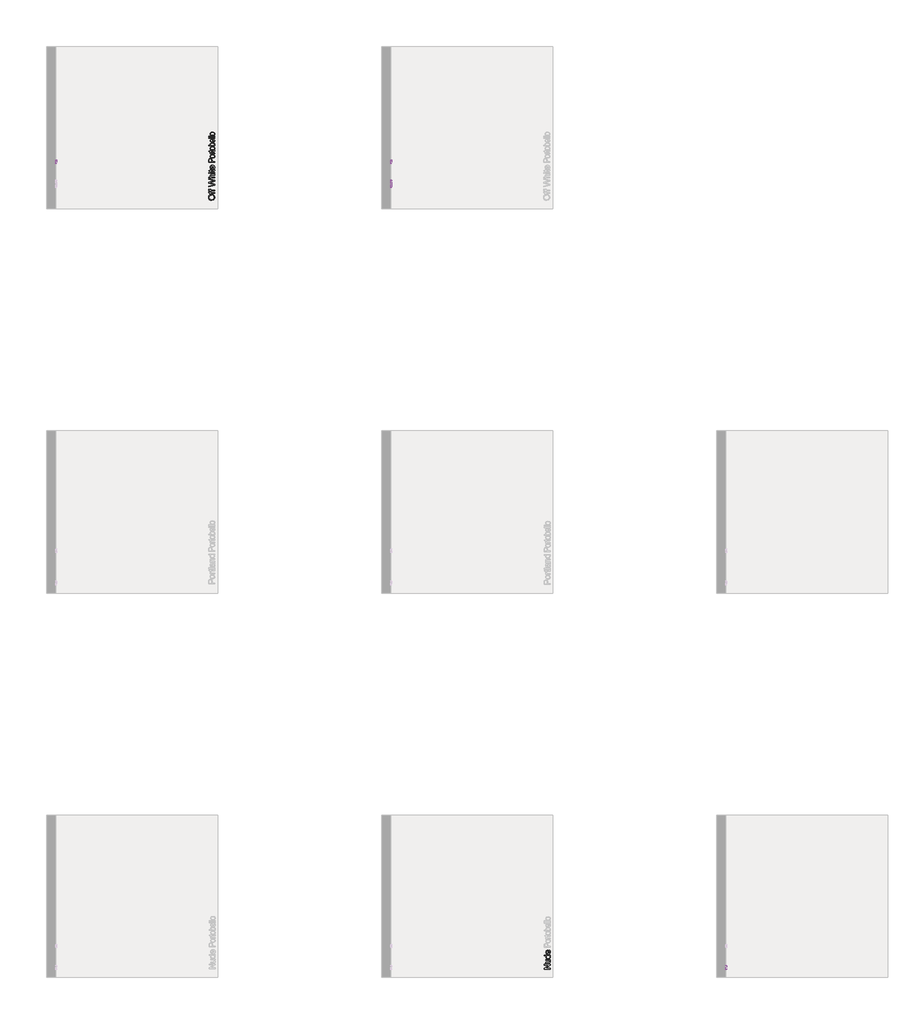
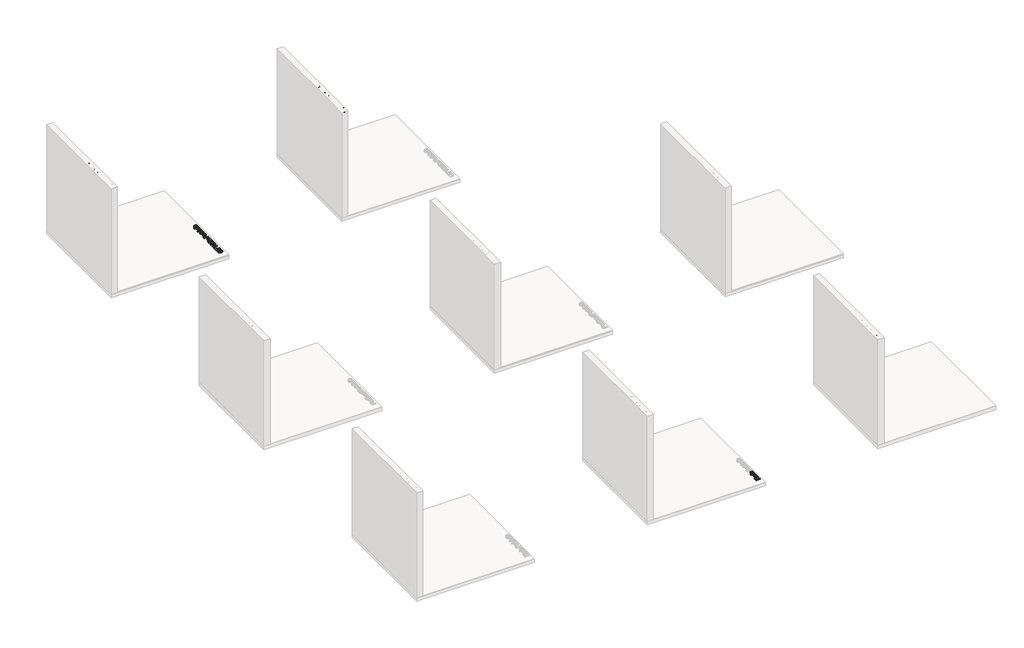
# One storey, part 10 of 14: 7 proxies.
"""IFC4 building model written with IfcOpenShell, lengths in millimetres."""

from ifc_helpers import new_model, si_unit, frame, origin, place, context, project, spatial, polyline, outline, extrude, element, save

model = new_model("IFC4")

# Units and contexts
model_context = context("Model", 3, world=origin())
ifc_project = project(units=[si_unit("LENGTHUNIT", "METRE", prefix="MILLI")], contexts=[model_context])

# Site, building, storey
site = spatial("IfcSite", under=ifc_project)
building = spatial("IfcBuilding", under=site)
storey = spatial("IfcBuildingStorey", under=building, Name="PORTOBELLO - SHOWROOM", Elevation=0.0)

# Proxies
placement = place(None, origin())
element("IfcBuildingElementProxy", 1, Name="10mm Arial", ObjectType="10mm Arial", at=placement, inside=storey, context=model_context, shape_type="SweptSolid", body=[
    extrude(outline(polyline([(192353.0453749, 3712.282743), (192252.5890648, 3712.282743), (192252.5890648, 3725.7226986), (192332.1742031, 3778.2071965), (192252.5890648, 3778.2071965), (192252.5890648, 3790.7642353), (192353.0453749, 3790.7642353), (192353.0453749, 3777.3242797), (192273.4357112, 3724.8397818), (192353.0453749, 3724.8397818), (192353.0453749, 3712.282743)])), frame((0.0, 0.0, 17.0), z_axis=(0.0, 0.0, 1.0), x_axis=(1.0, 0.0, 0.0)), (0.0, 0.0, 1.0), 20.0),
    extrude(outline(polyline([(192353.0453749, 3858.2583187), (192340.3657088, 3858.2583187), (192351.0526808, 3848.4236067), (192354.6150048, 3835.5967878), (192352.1134072, 3823.7877757), (192345.8348878, 3815.6453209), (192336.588787, 3811.9051873), (192324.914665, 3811.1694233), (192279.2727721, 3811.1694233), (192279.2727721, 3823.7264621), (192319.0040276, 3823.7264621), (192331.8063211, 3824.4867515), (192339.3233765, 3829.4531585), (192342.057966, 3838.8096239), (192339.2620628, 3849.2942607), (192331.6469055, 3856.222705), (192317.655127, 3858.2583187), (192279.2727721, 3858.2583187), (192279.2727721, 3870.8153575), (192353.0453749, 3870.8153575), (192353.0453749, 3858.2583187)])), frame((0.0, 0.0, 17.0), z_axis=(0.0, 0.0, 1.0), x_axis=(1.0, 0.0, 0.0)), (0.0, 0.0, 1.0), 20.0),
    extrude(outline(polyline([(192353.0453749, 3933.6005513), (192341.1995747, 3933.6005513), (192351.2611472, 3925.2925496), (192354.6150048, 3913.8085), (192349.7589624, 3898.2593543), (192336.2086423, 3887.2719454), (192316.2326499, 3883.3723962), (192296.2443949, 3886.965377), (192282.4856082, 3897.7320568), (192277.7031423, 3913.759449), (192281.1244449, 3925.3354691), (192290.0149264, 3933.6005513), (192252.5890648, 3933.6005513), (192252.5890648, 3946.1575901), (192353.0453749, 3946.1575901), (192353.0453749, 3933.6005513)]), holes=[polyline([(192316.183599, 3895.929435), (192327.5419556, 3897.3457807), (192335.6200311, 3901.5948177), (192340.4484823, 3907.7691039), (192342.057966, 3914.9611969), (192340.5220587, 3922.1502242), (192335.9143367, 3928.1681605), (192328.1489609, 3932.2424536), (192317.1400922, 3933.6005513), (192305.1042196, 3932.2179281), (192296.7594296, 3928.0700586), (192291.8849932, 3921.8988382), (192290.2601811, 3914.4461621), (192291.8206139, 3907.1804927), (192296.5019123, 3901.2269357), (192304.5431995, 3897.2538102), (192316.183599, 3895.929435)])]), frame((0.0, 0.0, 17.0), z_axis=(0.0, 0.0, 1.0), x_axis=(1.0, 0.0, 0.0)), (0.0, 0.0, 1.0), 20.0),
    extrude(outline(polyline([(192331.0705571, 4016.6437803), (192332.6401869, 4028.9555644), (192341.9169446, 4024.5195207), (192348.8515202, 4017.440858), (192353.1741336, 4007.8789918), (192354.6150048, 3995.9933377), (192352.1287356, 3981.2596638), (192344.6699282, 3969.922767), (192332.7229604, 3962.6938858), (192316.7722102, 3960.2842587), (192300.2849654, 3962.7184112), (192287.9547872, 3970.0208688), (192280.2660535, 3981.2044815), (192277.7031423, 3995.2820992), (192280.2599222, 4008.9213241), (192287.9302618, 4019.8198282), (192300.2359145, 4026.965936), (192316.6986338, 4029.3479719), (192320.0831481, 4029.2743955), (192320.0831481, 3972.8412975), (192329.4825331, 3975.0148669), (192336.3925833, 3980.0640473), (192340.6416203, 3987.3511765), (192342.057966, 3996.2385923), (192339.4337411, 4008.5503765), (192331.0705571, 4016.6437803)]), holes=[polyline([(192307.5261094, 3972.8412975), (192307.5261094, 4016.7909331), (192296.146293, 4011.7632125), (192291.731709, 4004.4423608), (192290.2601811, 3995.2330482), (192294.9568079, 3979.7697417), (192300.4474467, 3974.9045023), (192307.5261094, 3972.8412975)])]), frame((0.0, 0.0, 17.0), z_axis=(0.0, 0.0, 1.0), x_axis=(1.0, 0.0, 0.0)), (0.0, 0.0, 1.0), 20.0),
])
element("IfcBuildingElementProxy", 2, Name="10mm Arial", ObjectType="10mm Arial", at=placement, inside=storey, context=model_context, shape_type="SweptSolid", body=[
    extrude(outline(polyline([(186713.9139974, 16513.6004485), (186691.7000563, 16516.9481746), (186674.8939805, 16526.9913531), (186664.3173731, 16542.3259009), (186660.7918373, 16561.5477352), (186662.4473063, 16574.724042), (186667.4137133, 16586.5391854), (186675.3415702, 16596.3493719), (186685.8813894, 16603.5108081), (186698.5242673, 16607.8886038), (186712.7613005, 16609.3478691), (186727.1884061, 16607.8119617), (186740.0090936, 16603.2042398), (186750.5673069, 16595.7791548), (186758.2069897, 16585.7911586), (186762.8423028, 16574.0771828), (186764.3874072, 16561.4741588), (186762.6798216, 16548.0955169), (186757.5570648, 16536.2129284), (186749.482055, 16526.4272674), (186738.9177104, 16519.3394076), (186713.9139974, 16513.6004485)]), holes=[polyline([(186714.0366248, 16526.1574872), (186729.7513173, 16528.6682818), (186741.7258763, 16536.2006657), (186749.3042454, 16547.5222341), (186751.8303684, 16561.4005824), (186749.2797199, 16575.4812657), (186741.6277744, 16586.8212282), (186729.2853335, 16594.2984298), (186712.6631987, 16596.7908303), (186691.9391796, 16592.5233992), (186678.2171812, 16580.0521995), (186673.3488761, 16561.6213116), (186675.6941238, 16548.113911), (186682.729867, 16536.6298614), (186695.2470519, 16528.7755808), (186714.0366248, 16526.1574872)])]), frame((0.0, 0.0, 17.0), z_axis=(0.0, 0.0, 1.0), x_axis=(1.0, 0.0, 0.0)), (0.0, 0.0, 1.0), 20.0),
    extrude(outline(polyline([(186762.8177773, 16668.9938032), (186701.6022133, 16668.9938032), (186701.6022133, 16658.0063943), (186689.0451746, 16658.0063943), (186689.0451746, 16668.9938032), (186681.6139583, 16668.9938032), (186671.1415841, 16670.3181784), (186663.6613169, 16676.7438506), (186660.7918373, 16689.3989912), (186662.1652635, 16700.852384), (186673.9374873, 16699.012974), (186673.3488761, 16691.7779615), (186675.4335407, 16683.8684986), (186683.2081136, 16681.550842), (186689.0451746, 16681.550842), (186689.0451746, 16695.6775106), (186701.6022133, 16695.6775106), (186701.6022133, 16681.550842), (186762.8177773, 16681.550842), (186762.8177773, 16668.9938032)])), frame((0.0, 0.0, 17.0), z_axis=(0.0, 0.0, 1.0), x_axis=(1.0, 0.0, 0.0)), (0.0, 0.0, 1.0), 20.0),
    extrude(outline(polyline([(186762.8177773, 16628.1834272), (186701.6022133, 16628.1834272), (186701.6022133, 16617.1960183), (186689.0451746, 16617.1960183), (186689.0451746, 16628.1834272), (186681.6139583, 16628.1834272), (186671.1415841, 16629.5078024), (186663.6613169, 16635.9334746), (186660.7918373, 16648.5886152), (186662.1652635, 16660.042008), (186673.9374873, 16658.202598), (186673.3488761, 16650.9675855), (186675.4335407, 16643.0581226), (186683.2081136, 16640.740466), (186689.0451746, 16640.740466), (186689.0451746, 16654.8671346), (186701.6022133, 16654.8671346), (186701.6022133, 16640.740466), (186762.8177773, 16640.740466), (186762.8177773, 16628.1834272)])), frame((0.0, 0.0, 17.0), z_axis=(0.0, 0.0, 1.0), x_axis=(1.0, 0.0, 0.0)), (0.0, 0.0, 1.0), 20.0),
    extrude(outline(polyline([(186762.8177773, 16765.4524624), (186662.3614672, 16738.0575165), (186662.3614672, 16751.0069627), (186728.3840226, 16766.8994649), (186748.7646851, 16771.8045581), (186730.7384674, 16777.0530079), (186662.3614672, 16796.9676866), (186662.3614672, 16815.6315665), (186711.9274347, 16830.1015916), (186748.7646851, 16840.8682714), (186728.9726338, 16845.6262118), (186662.3614672, 16861.6658668), (186662.3614672, 16874.6153131), (186762.8177773, 16847.1958417), (186762.8177773, 16833.7804116), (186685.3173037, 16809.6964036), (186674.501573, 16806.3364148), (186687.5245957, 16802.5594929), (186762.8177773, 16780.6092006), (186762.8177773, 16765.4524624)])), frame((0.0, 0.0, 17.0), z_axis=(0.0, 0.0, 1.0), x_axis=(1.0, 0.0, 0.0)), (0.0, 0.0, 1.0), 20.0),
    extrude(outline(polyline([(186762.8177773, 16885.602722), (186662.3614672, 16885.602722), (186662.3614672, 16898.1597608), (186699.2968195, 16898.1597608), (186690.4308634, 16907.9515532), (186687.4755447, 16920.0119513), (186690.7006435, 16934.1140944), (186699.6156506, 16942.6734822), (186716.1212894, 16945.2486561), (186762.8177773, 16945.2486561), (186762.8177773, 16932.6916174), (186717.4211391, 16932.6916174), (186704.1773873, 16928.6939664), (186700.0325835, 16917.3632009), (186702.8284867, 16907.0747678), (186710.4068558, 16900.2076372), (186723.6260821, 16898.1597608), (186762.8177773, 16898.1597608), (186762.8177773, 16885.602722)])), frame((0.0, 0.0, 17.0), z_axis=(0.0, 0.0, 1.0), x_axis=(1.0, 0.0, 0.0)), (0.0, 0.0, 1.0), 20.0),
    extrude(outline(polyline([(186674.918506, 16962.5145844), (186662.3614672, 16962.5145844), (186662.3614672, 16975.0716232), (186674.918506, 16975.0716232), (186674.918506, 16962.5145844)])), frame((0.0, 0.0, 17.0), z_axis=(0.0, 0.0, 1.0), x_axis=(1.0, 0.0, 0.0)), (0.0, 0.0, 1.0), 20.0),
    extrude(outline(polyline([(186762.8177773, 16962.5145844), (186689.0451746, 16962.5145844), (186689.0451746, 16975.0716232), (186762.8177773, 16975.0716232), (186762.8177773, 16962.5145844)])), frame((0.0, 0.0, 17.0), z_axis=(0.0, 0.0, 1.0), x_axis=(1.0, 0.0, 0.0)), (0.0, 0.0, 1.0), 20.0),
    extrude(outline(polyline([(186752.3454032, 17020.5908887), (186763.1856593, 17022.1605186), (186764.3874072, 17012.767265), (186762.3027425, 17002.2458399), (186756.8335635, 16996.9973901), (186742.5842676, 16995.4768112), (186701.6022133, 16995.4768112), (186701.6022133, 16986.0590321), (186689.0451746, 16986.0590321), (186689.0451746, 16995.4768112), (186671.1170587, 16995.4768112), (186663.7348933, 17008.03385), (186689.0451746, 17008.03385), (186689.0451746, 17020.5908887), (186701.6022133, 17020.5908887), (186701.6022133, 17008.03385), (186742.2163856, 17008.03385), (186748.6911087, 17008.6960376), (186750.9842398, 17010.8420159), (186751.8303684, 17015.1217098), (186752.3454032, 17020.5908887)])), frame((0.0, 0.0, 17.0), z_axis=(0.0, 0.0, 1.0), x_axis=(1.0, 0.0, 0.0)), (0.0, 0.0, 1.0), 20.0),
    extrude(outline(polyline([(186740.8429595, 17084.7985596), (186742.4125893, 17097.1103437), (186751.689347, 17092.6743), (186758.6239226, 17085.5956373), (186762.946536, 17076.0337711), (186764.3874072, 17064.148117), (186761.901138, 17049.4144431), (186754.4423306, 17038.0775463), (186742.4953628, 17030.848665), (186726.5446126, 17028.439038), (186710.0573679, 17030.8731905), (186697.7271897, 17038.1756481), (186690.038456, 17049.3592608), (186687.4755447, 17063.4368785), (186690.0323246, 17077.0761034), (186697.7026642, 17087.9746075), (186710.0083169, 17095.1207153), (186726.4710362, 17097.5027512), (186729.8555506, 17097.4291748), (186729.8555506, 17040.9960767), (186739.2549355, 17043.1696462), (186746.1649857, 17048.2188266), (186750.4140227, 17055.5059558), (186751.8303684, 17064.3933716), (186749.2061435, 17076.7051557), (186740.8429595, 17084.7985596)]), holes=[polyline([(186717.2985118, 17040.9960767), (186717.2985118, 17084.9457124), (186705.9186954, 17079.9179918), (186701.5041115, 17072.5971401), (186700.0325835, 17063.3878275), (186704.7292103, 17047.924521), (186710.2198491, 17043.0592816), (186717.2985118, 17040.9960767)])]), frame((0.0, 0.0, 17.0), z_axis=(0.0, 0.0, 1.0), x_axis=(1.0, 0.0, 0.0)), (0.0, 0.0, 1.0), 20.0),
])
element("IfcBuildingElementProxy", 3, Name="10mm Arial", ObjectType="10mm Arial", at=placement, inside=storey, context=model_context, shape_type="SweptSolid", body=[
    extrude(outline(polyline([(3702.0552811, 2558.2261649), (3702.0552811, 2658.6824751), (3715.4952367, 2658.6824751), (3767.9797347, 2579.0973368), (3767.9797347, 2658.6824751), (3780.5367734, 2658.6824751), (3780.5367734, 2558.2261649), (3767.0968179, 2558.2261649), (3714.6123199, 2637.8358287), (3714.6123199, 2558.2261649), (3702.0552811, 2558.2261649)])), frame((195271.7113716, 0.0, 0.0), z_axis=(1.0, 0.0, 0.0), x_axis=(0.0, 1.0, 0.0)), (0.0, 0.0, 1.0), 20.0),
    extrude(outline(polyline([(3848.0308568, 2558.2261649), (3848.0308568, 2570.905831), (3838.1961448, 2560.2188591), (3825.3693259, 2556.6565351), (3813.5603139, 2559.1581327), (3805.4178591, 2565.436652), (3801.6777254, 2574.6827529), (3800.9419614, 2586.3568748), (3800.9419614, 2631.9987677), (3813.4990002, 2631.9987677), (3813.4990002, 2592.2675122), (3814.2592897, 2579.4652188), (3819.2256966, 2571.9481634), (3828.582162, 2569.2135739), (3839.0667989, 2572.009477), (3845.9952431, 2579.6246343), (3848.0308568, 2593.6164129), (3848.0308568, 2631.9987677), (3860.5878956, 2631.9987677), (3860.5878956, 2558.2261649), (3848.0308568, 2558.2261649)])), frame((195271.7113716, 0.0, 0.0), z_axis=(1.0, 0.0, 0.0), x_axis=(0.0, 1.0, 0.0)), (0.0, 0.0, 1.0), 20.0),
    extrude(outline(polyline([(3923.3730894, 2558.2261649), (3923.3730894, 2570.0719652), (3915.0650877, 2560.0103926), (3903.5810381, 2556.6565351), (3888.0318924, 2561.5125774), (3877.0444835, 2575.0628976), (3873.1449344, 2595.0388899), (3876.7379152, 2615.027145), (3887.5045949, 2628.7859316), (3903.5319872, 2633.5683975), (3915.1080073, 2630.147095), (3923.3730894, 2621.2566134), (3923.3730894, 2658.6824751), (3935.9301282, 2658.6824751), (3935.9301282, 2558.2261649), (3923.3730894, 2558.2261649)]), holes=[polyline([(3885.7019731, 2595.0879409), (3887.1183188, 2583.7295843), (3891.3673559, 2575.6515088), (3897.541642, 2570.8230576), (3904.733735, 2569.2135739), (3911.9227623, 2570.7494812), (3917.9406986, 2575.3572032), (3922.0149917, 2583.122579), (3923.3730894, 2594.1314477), (3921.9904663, 2606.1673203), (3917.8425968, 2614.5121102), (3911.6713763, 2619.3865466), (3904.2187002, 2621.0113588), (3896.9530308, 2619.450926), (3890.9994739, 2614.7696276), (3887.0263483, 2606.7283403), (3885.7019731, 2595.0879409)])]), frame((195271.7113716, 0.0, 0.0), z_axis=(1.0, 0.0, 0.0), x_axis=(0.0, 1.0, 0.0)), (0.0, 0.0, 1.0), 20.0),
    extrude(outline(polyline([(4006.4163185, 2580.2009828), (4018.7281026, 2578.6313529), (4014.2920589, 2569.3545953), (4007.2133961, 2562.4200197), (3997.6515299, 2558.0974062), (3985.7658758, 2556.6565351), (3971.0322019, 2559.1428042), (3959.6953051, 2566.6016117), (3952.4664239, 2578.5485795), (3950.0567968, 2594.4993297), (3952.4909494, 2610.9865744), (3959.793407, 2623.3167526), (3970.9770196, 2631.0054863), (3985.0546373, 2633.5683975), (3998.6938623, 2631.0116177), (4009.5923664, 2623.3412781), (4016.7384741, 2611.0356253), (4019.1205101, 2594.5729061), (4019.0469337, 2591.1883917), (3962.6138356, 2591.1883917), (3964.787405, 2581.7890067), (3969.8365854, 2574.8789566), (3977.1237146, 2570.6299195), (3986.0111305, 2569.2135739), (3998.3229146, 2571.8377988), (4006.4163185, 2580.2009828)]), holes=[polyline([(3962.6138356, 2603.7454305), (4006.5634713, 2603.7454305), (4001.5357507, 2615.1252469), (3994.214899, 2619.5398308), (3985.0055864, 2621.0113588), (3969.5422798, 2616.314732), (3964.6770404, 2610.8240932), (3962.6138356, 2603.7454305)])]), frame((195271.7113716, 0.0, 0.0), z_axis=(1.0, 0.0, 0.0), x_axis=(0.0, 1.0, 0.0)), (0.0, 0.0, 1.0), 20.0),
])
element("IfcBuildingElementProxy", 4, Name="10mm Arial", ObjectType="10mm Arial", at=placement, inside=storey, context=model_context, shape_type="SweptSolid", body=[
    extrude(outline(polyline([(16497.3463916, 2607.1299448), (16500.6941178, 2629.343886), (16510.7372962, 2646.1499618), (16526.0718441, 2656.7265691), (16545.2936783, 2660.2521049), (16558.4699851, 2658.596636), (16570.2851285, 2653.630229), (16580.0953151, 2645.702372), (16587.2567512, 2635.1625529), (16591.634547, 2622.519675), (16593.0938122, 2608.2826417), (16591.5579049, 2593.8555362), (16586.9501829, 2581.0348486), (16579.525098, 2570.4766354), (16569.5371018, 2562.8369526), (16557.8231259, 2558.2016395), (16545.2201019, 2556.6565351), (16531.84146, 2558.3641207), (16519.9588716, 2563.4868775), (16510.1732105, 2571.5618873), (16503.0853507, 2582.1262319), (16497.3463916, 2607.1299448)]), holes=[polyline([(16509.9034304, 2607.0073175), (16512.414225, 2591.2926249), (16519.9466088, 2579.318066), (16531.2681772, 2571.7396969), (16545.1465255, 2569.2135739), (16559.2272089, 2571.7642224), (16570.5671714, 2579.4161679), (16578.0443729, 2591.7586088), (16580.5367734, 2608.3807436), (16576.2693423, 2629.1047627), (16563.7981427, 2642.8267611), (16545.3672547, 2647.6950662), (16531.8598541, 2645.3498184), (16520.3758045, 2638.3140753), (16512.5215239, 2625.7968904), (16509.9034304, 2607.0073175)])]), frame((189692.8293498, 0.0, 0.0), z_axis=(1.0, 0.0, 0.0), x_axis=(0.0, 1.0, 0.0)), (0.0, 0.0, 1.0), 20.0),
    extrude(outline(polyline([(16652.7397464, 2558.2261649), (16652.7397464, 2619.4417289), (16641.7523374, 2619.4417289), (16641.7523374, 2631.9987677), (16652.7397464, 2631.9987677), (16652.7397464, 2639.429984), (16654.0641215, 2649.9023581), (16660.4897937, 2657.3826254), (16673.1449344, 2660.2521049), (16684.5983271, 2658.8786788), (16682.7589172, 2647.106455), (16675.5239046, 2647.6950662), (16667.6144417, 2645.6104015), (16665.2967851, 2637.8358287), (16665.2967851, 2631.9987677), (16679.4234537, 2631.9987677), (16679.4234537, 2619.4417289), (16665.2967851, 2619.4417289), (16665.2967851, 2558.2261649), (16652.7397464, 2558.2261649)])), frame((189692.8293498, 0.0, 0.0), z_axis=(1.0, 0.0, 0.0), x_axis=(0.0, 1.0, 0.0)), (0.0, 0.0, 1.0), 20.0),
    extrude(outline(polyline([(16611.9293704, 2558.2261649), (16611.9293704, 2619.4417289), (16600.9419614, 2619.4417289), (16600.9419614, 2631.9987677), (16611.9293704, 2631.9987677), (16611.9293704, 2639.429984), (16613.2537456, 2649.9023581), (16619.6794177, 2657.3826254), (16632.3345584, 2660.2521049), (16643.7879511, 2658.8786788), (16641.9485412, 2647.106455), (16634.7135286, 2647.6950662), (16626.8040657, 2645.6104015), (16624.4864091, 2637.8358287), (16624.4864091, 2631.9987677), (16638.6130778, 2631.9987677), (16638.6130778, 2619.4417289), (16624.4864091, 2619.4417289), (16624.4864091, 2558.2261649), (16611.9293704, 2558.2261649)])), frame((189692.8293498, 0.0, 0.0), z_axis=(1.0, 0.0, 0.0), x_axis=(0.0, 1.0, 0.0)), (0.0, 0.0, 1.0), 20.0),
    extrude(outline(polyline([(16749.1984055, 2558.2261649), (16721.8034596, 2658.6824751), (16734.7529058, 2658.6824751), (16750.645408, 2592.6599197), (16755.5505013, 2572.2792572), (16760.7989511, 2590.3054749), (16780.7136298, 2658.6824751), (16799.3775096, 2658.6824751), (16813.8475348, 2609.1165076), (16824.6142145, 2572.2792572), (16829.372155, 2592.0713085), (16845.41181, 2658.6824751), (16858.3612562, 2658.6824751), (16830.9417848, 2558.2261649), (16817.5263547, 2558.2261649), (16793.4423468, 2635.7266386), (16790.0823579, 2646.5423692), (16786.3054361, 2633.5193466), (16764.3551437, 2558.2261649), (16749.1984055, 2558.2261649)])), frame((189692.8293498, 0.0, 0.0), z_axis=(1.0, 0.0, 0.0), x_axis=(0.0, 1.0, 0.0)), (0.0, 0.0, 1.0), 20.0),
    extrude(outline(polyline([(16869.3486651, 2558.2261649), (16869.3486651, 2658.6824751), (16881.9057039, 2658.6824751), (16881.9057039, 2621.7471228), (16891.6974963, 2630.6130789), (16903.7578944, 2633.5683975), (16917.8600376, 2630.3432987), (16926.4194253, 2621.4282917), (16928.9945993, 2604.9226529), (16928.9945993, 2558.2261649), (16916.4375605, 2558.2261649), (16916.4375605, 2603.6228031), (16912.4399095, 2616.866555), (16901.109144, 2621.0113588), (16890.8207109, 2618.2154556), (16883.9535803, 2610.6370865), (16881.9057039, 2597.4178602), (16881.9057039, 2558.2261649), (16869.3486651, 2558.2261649)])), frame((189692.8293498, 0.0, 0.0), z_axis=(1.0, 0.0, 0.0), x_axis=(0.0, 1.0, 0.0)), (0.0, 0.0, 1.0), 20.0),
    extrude(outline(polyline([(189712.8293498, 16958.8175664), (189712.8293498, 16946.2605276), (189692.8293498, 16946.2605276), (189692.8293498, 16958.8175664), (189712.8293498, 16958.8175664)])), frame((0.0, 0.0, 2646.1254363), z_axis=(0.0, 0.0, 1.0), x_axis=(1.0, 0.0, 0.0)), (0.0, 0.0, 1.0), 12.5570388),
    extrude(outline(polyline([(189712.8293498, 16958.8175664), (189712.8293498, 16946.2605276), (189692.8293498, 16946.2605276), (189692.8293498, 16958.8175664), (189712.8293498, 16958.8175664)])), frame((0.0, 0.0, 2558.2261649), z_axis=(0.0, 0.0, 1.0), x_axis=(1.0, 0.0, 0.0)), (0.0, 0.0, 1.0), 73.7726028),
    extrude(outline(polyline([(17004.3368319, 2568.6985391), (17005.9064617, 2557.8582829), (16996.5132081, 2556.6565351), (16985.9917831, 2558.7411997), (16980.7433333, 2564.2103787), (16979.2227544, 2578.4596747), (16979.2227544, 2619.4417289), (16969.8049753, 2619.4417289), (16969.8049753, 2631.9987677), (16979.2227544, 2631.9987677), (16979.2227544, 2649.9268836), (16991.7797931, 2657.309049), (16991.7797931, 2631.9987677), (17004.3368319, 2631.9987677), (17004.3368319, 2619.4417289), (16991.7797931, 2619.4417289), (16991.7797931, 2578.8275567), (16992.4419807, 2572.3528336), (16994.587959, 2570.0597024), (16998.8676529, 2569.2135739), (17004.3368319, 2568.6985391)])), frame((189692.8293498, 0.0, 0.0), z_axis=(1.0, 0.0, 0.0), x_axis=(0.0, 1.0, 0.0)), (0.0, 0.0, 1.0), 20.0),
    extrude(outline(polyline([(17068.5445028, 2580.2009828), (17080.8562869, 2578.6313529), (17076.4202432, 2569.3545953), (17069.3415804, 2562.4200197), (17059.7797142, 2558.0974062), (17047.8940601, 2556.6565351), (17033.1603862, 2559.1428042), (17021.8234894, 2566.6016117), (17014.5946082, 2578.5485795), (17012.1849811, 2594.4993297), (17014.6191337, 2610.9865744), (17021.9215913, 2623.3167526), (17033.1052039, 2631.0054863), (17047.1828216, 2633.5683975), (17060.8220466, 2631.0116177), (17071.7205507, 2623.3412781), (17078.8666584, 2611.0356253), (17081.2486943, 2594.5729061), (17081.1751179, 2591.1883917), (17024.7420199, 2591.1883917), (17026.9155893, 2581.7890067), (17031.9647697, 2574.8789566), (17039.2518989, 2570.6299195), (17048.1393148, 2569.2135739), (17060.4510989, 2571.8377988), (17068.5445028, 2580.2009828)]), holes=[polyline([(17024.7420199, 2603.7454305), (17068.6916556, 2603.7454305), (17063.663935, 2615.1252469), (17056.3430833, 2619.5398308), (17047.1337707, 2621.0113588), (17031.6704641, 2616.314732), (17026.8052247, 2610.8240932), (17024.7420199, 2603.7454305)])]), frame((189692.8293498, 0.0, 0.0), z_axis=(1.0, 0.0, 0.0), x_axis=(0.0, 1.0, 0.0)), (0.0, 0.0, 1.0), 20.0),
])
element("IfcBuildingElementProxy", 5, Name="10mm Arial Narrow", ObjectType="10mm Arial Narrow", at=placement, inside=storey, context=model_context, shape_type="SweptSolid", body=[
    extrude(outline(polyline([(186762.8177773, 17145.6232376), (186662.0991736, 17145.6232376), (186662.0991736, 17176.9201223), (186663.9774943, 17193.2158238), (186673.4579375, 17204.6888099), (186690.4770463, 17208.9784884), (186702.5528718, 17207.19218), (186712.1792656, 17201.8332548), (186718.480524, 17192.089466), (186720.5809435, 17177.1485667), (186720.5809435, 17155.3701993), (186762.8177773, 17155.3701993), (186762.8177773, 17145.6232376)]), holes=[polyline([(186709.2094882, 17155.3701993), (186709.2094882, 17178.3415542), (186704.678674, 17194.2057496), (186691.0100833, 17199.2315267), (186680.8443069, 17196.7567122), (186675.044357, 17190.7790834), (186673.4706288, 17178.1131098), (186673.4706288, 17155.3701993), (186709.2094882, 17155.3701993)])]), frame((0.0, 0.0, 17.0), z_axis=(0.0, 0.0, 1.0), x_axis=(1.0, 0.0, 0.0)), (0.0, 0.0, 1.0), 20.0),
    extrude(outline(polyline([(186726.2666711, 17217.1009564), (186709.6758956, 17219.0554253), (186697.7238108, 17224.9188319), (186690.4992562, 17233.7773986), (186688.0910713, 17244.7173478), (186690.4992562, 17255.5303834), (186697.7238108, 17264.4143328), (186709.4855252, 17270.3538875), (186725.5051898, 17272.3337391), (186742.6670763, 17270.3887888), (186754.8095315, 17264.5539377), (186762.0340861, 17255.7048895), (186764.4422709, 17244.7173478), (186762.0277404, 17233.8567196), (186754.7841488, 17224.9822887), (186742.8257183, 17219.0712895), (186726.2666711, 17217.1009564)]), holes=[polyline([(186726.2412884, 17226.8479181), (186738.7930398, 17228.1519549), (186747.6642979, 17232.0640655), (186752.9375564, 17237.9052623), (186754.6953093, 17244.9965576), (186752.9216922, 17251.7166308), (186747.6008411, 17257.4087041), (186738.7137188, 17261.2922591), (186726.2412884, 17262.5867775), (186713.7276111, 17261.2827406), (186704.8690444, 17257.37063), (186699.5957858, 17251.5294333), (186697.838033, 17244.4381379), (186699.6053043, 17237.6704722), (186704.9071184, 17231.9879174), (186713.7752037, 17228.1329179), (186726.2412884, 17226.8479181)])]), frame((0.0, 0.0, 17.0), z_axis=(0.0, 0.0, 1.0), x_axis=(1.0, 0.0, 0.0)), (0.0, 0.0, 1.0), 20.0),
    extrude(outline(polyline([(186754.6953093, 17343.8114579), (186764.4422709, 17345.4359515), (186764.4422709, 17338.0749649), (186762.3228144, 17329.8002005), (186756.5228646, 17325.4851394), (186741.8770394, 17324.3175346), (186699.4625266, 17324.3175346), (186699.4625266, 17316.1950666), (186696.2135394, 17316.1950666), (186701.0870202, 17314.570573), (186699.4625266, 17307.0065246), (186701.7850448, 17300.9273649), (186708.2703279, 17297.0565012), (186723.6776344, 17295.0766496), (186762.8177773, 17295.0766496), (186762.8177773, 17285.329688), (186689.7155649, 17285.329688), (186689.7155649, 17295.0766496), (186699.4117612, 17295.0766496), (186690.32475, 17301.320797), (186688.0910713, 17307.7172405), (186689.7155649, 17316.1950666), (186689.7155649, 17324.3175346), (186673.4706288, 17324.3175346), (186665.3481608, 17334.0644963), (186689.7155649, 17334.0644963), (186689.7155649, 17343.8114579), (186699.4625266, 17343.8114579), (186699.4625266, 17334.0644963), (186744.1107181, 17334.0644963), (186752.1062726, 17334.9275085), (186754.6953093, 17339.5471622), (186754.6953093, 17343.8114579)])), frame((0.0, 0.0, 17.0), z_axis=(0.0, 0.0, 1.0), x_axis=(1.0, 0.0, 0.0)), (0.0, 0.0, 1.0), 20.0),
    extrude(outline(polyline([(186726.2666711, 17350.3094324), (186709.6758956, 17352.2639012), (186697.7238108, 17358.1273078), (186690.4992562, 17366.9858746), (186688.0910713, 17377.9258237), (186690.4992562, 17388.7388593), (186697.7238108, 17397.6228087), (186709.4855252, 17403.5623635), (186725.5051898, 17405.5422151), (186742.6670763, 17403.5972647), (186754.8095315, 17397.7624136), (186762.0340861, 17388.9133654), (186764.4422709, 17377.9258237), (186762.0277404, 17367.0651955), (186754.7841488, 17358.1907646), (186742.8257183, 17352.2797654), (186726.2666711, 17350.3094324)]), holes=[polyline([(186726.2412884, 17360.056394), (186738.7930398, 17361.3604309), (186747.6642979, 17365.2725415), (186752.9375564, 17371.1137382), (186754.6953093, 17378.2050335), (186752.9216922, 17384.9251067), (186747.6008411, 17390.61718), (186738.7137188, 17394.5007351), (186726.2412884, 17395.7952534), (186713.7276111, 17394.4912165), (186704.8690444, 17390.579106), (186699.5957858, 17384.7379092), (186697.838033, 17377.6466139), (186699.6053043, 17370.8789481), (186704.9071184, 17365.1963933), (186713.7752037, 17361.3413938), (186726.2412884, 17360.056394)])]), frame((0.0, 0.0, 17.0), z_axis=(0.0, 0.0, 1.0), x_axis=(1.0, 0.0, 0.0)), (0.0, 0.0, 1.0), 20.0),
    extrude(outline(polyline([(186762.8177773, 17428.2851256), (186762.8177773, 17418.5381639), (186662.0991736, 17418.5381639), (186662.0991736, 17428.2851256), (186697.5080577, 17428.2851256), (186690.4262809, 17435.6841863), (186688.0910713, 17444.8854196), (186692.2919103, 17457.7671463), (186705.0213407, 17467.0445278), (186725.7082515, 17470.5219594), (186742.1625949, 17468.5897004), (186754.365334, 17462.7929234), (186761.9230367, 17454.4198011), (186764.4422709, 17444.7585061), (186761.8278515, 17435.4176678), (186754.0607415, 17428.2851256), (186762.8177773, 17428.2851256)]), holes=[polyline([(186725.7082515, 17428.2851256), (186742.9558047, 17430.366508), (186751.6874578, 17436.2552973), (186754.6953093, 17444.7077407), (186752.905828, 17450.6504683), (186747.5373843, 17455.8888256), (186726.1143749, 17460.7749978), (186704.678674, 17456.0665046), (186699.5481932, 17450.8218016), (186697.838033, 17444.504679), (186699.6275142, 17438.5270501), (186704.9959579, 17433.2347545), (186725.7082515, 17428.2851256)])]), frame((0.0, 0.0, 17.0), z_axis=(0.0, 0.0, 1.0), x_axis=(1.0, 0.0, 0.0)), (0.0, 0.0, 1.0), 20.0),
    extrude(outline(polyline([(186740.0748668, 17522.5057549), (186741.6993604, 17532.2527166), (186751.585927, 17528.5531862), (186758.7057779, 17522.7341993), (186763.0081477, 17515.030546), (186764.4422709, 17505.6770164), (186762.0277404, 17494.0834624), (186754.7841488, 17484.9393402), (186742.9780146, 17478.9997854), (186726.8758562, 17477.0199338), (186710.2089325, 17479.009304), (186698.0284033, 17484.9774143), (186690.5754043, 17493.9914501), (186688.0910713, 17505.1185967), (186690.4897377, 17515.8015459), (186697.6857367, 17524.5490633), (186709.4252413, 17530.3839143), (186725.4544243, 17532.3288647), (186728.7034115, 17532.2527166), (186728.7034115, 17486.7668955), (186748.1465694, 17492.769907), (186753.0581243, 17498.6999433), (186754.6953093, 17505.80393), (186751.0401987, 17515.9823977), (186740.0748668, 17522.5057549)]), holes=[polyline([(186718.9564499, 17487.426846), (186718.9564499, 17522.5057549), (186704.6913654, 17518.2414592), (186699.5513661, 17512.4161266), (186697.838033, 17505.1947449), (186703.5491433, 17492.9856601), (186718.9564499, 17487.426846)])]), frame((0.0, 0.0, 17.0), z_axis=(0.0, 0.0, 1.0), x_axis=(1.0, 0.0, 0.0)), (0.0, 0.0, 1.0), 20.0),
    extrude(outline(polyline([(186762.8177773, 17545.2486654), (186662.0991736, 17545.2486654), (186662.0991736, 17554.9956271), (186762.8177773, 17554.9956271), (186762.8177773, 17545.2486654)])), frame((0.0, 0.0, 17.0), z_axis=(0.0, 0.0, 1.0), x_axis=(1.0, 0.0, 0.0)), (0.0, 0.0, 1.0), 20.0),
    extrude(outline(polyline([(186762.8177773, 17571.2405632), (186662.0991736, 17571.2405632), (186662.0991736, 17580.9875248), (186762.8177773, 17580.9875248), (186762.8177773, 17571.2405632)])), frame((0.0, 0.0, 17.0), z_axis=(0.0, 0.0, 1.0), x_axis=(1.0, 0.0, 0.0)), (0.0, 0.0, 1.0), 20.0),
    extrude(outline(polyline([(186726.2666711, 17592.3589801), (186709.6758956, 17594.313449), (186697.7238108, 17600.1768556), (186690.4992562, 17609.0354223), (186688.0910713, 17619.9753714), (186690.4992562, 17630.788407), (186697.7238108, 17639.6723564), (186709.4855252, 17645.6119112), (186725.5051898, 17647.5917628), (186742.6670763, 17645.6468124), (186754.8095315, 17639.8119614), (186762.0340861, 17630.9629132), (186764.4422709, 17619.9753714), (186762.0277404, 17609.1147433), (186754.7841488, 17600.2403124), (186742.8257183, 17594.3293131), (186726.2666711, 17592.3589801)]), holes=[polyline([(186726.2412884, 17602.1059417), (186738.7930398, 17603.4099786), (186747.6642979, 17607.3220892), (186752.9375564, 17613.1632859), (186754.6953093, 17620.2545813), (186752.9216922, 17626.9746544), (186747.6008411, 17632.6667278), (186738.7137188, 17636.5502828), (186726.2412884, 17637.8448011), (186713.7276111, 17636.5407643), (186704.8690444, 17632.6286537), (186699.5957858, 17626.7874569), (186697.838033, 17619.6961616), (186699.6053043, 17612.9284958), (186704.9071184, 17607.245941), (186713.7752037, 17603.3909416), (186726.2412884, 17602.1059417)])]), frame((0.0, 0.0, 17.0), z_axis=(0.0, 0.0, 1.0), x_axis=(1.0, 0.0, 0.0)), (0.0, 0.0, 1.0), 20.0),
])
element("IfcBuildingElementProxy", 6, Name="10mm Arial Narrow", ObjectType="10mm Arial Narrow", at=placement, inside=storey, context=model_context, shape_type="SweptSolid", body=[
    extrude(outline(polyline([(17124.1903403, 2558.2261649), (17124.1903403, 2658.9447687), (17155.4872249, 2658.9447687), (17171.7829265, 2657.066448), (17183.2559126, 2647.5860048), (17187.545591, 2630.566896), (17185.7592826, 2618.4910704), (17180.4003574, 2608.8646767), (17170.6565686, 2602.5634182), (17155.7156694, 2600.4629988), (17133.9373019, 2600.4629988), (17133.9373019, 2558.2261649), (17124.1903403, 2558.2261649)]), holes=[polyline([(17133.9373019, 2611.834454), (17156.9086569, 2611.834454), (17172.7728523, 2616.3652682), (17177.7986294, 2630.033859), (17175.3238149, 2640.1996354), (17169.346186, 2645.9995852), (17156.6802124, 2647.5733134), (17133.9373019, 2647.5733134), (17133.9373019, 2611.834454)])]), frame((189692.8293498, 0.0, 0.0), z_axis=(1.0, 0.0, 0.0), x_axis=(0.0, 1.0, 0.0)), (0.0, 0.0, 1.0), 20.0),
    extrude(outline(polyline([(17195.6680591, 2594.7772711), (17197.6225279, 2611.3680467), (17203.4859345, 2623.3201315), (17212.3445013, 2630.5446861), (17223.2844504, 2632.9528709), (17234.097486, 2630.5446861), (17242.9814354, 2623.3201315), (17248.9209902, 2611.558417), (17250.9008418, 2595.5387525), (17248.9558914, 2578.3768659), (17243.1210403, 2566.2344108), (17234.2719921, 2559.0098562), (17223.2844504, 2556.6016713), (17212.4238222, 2559.0162019), (17203.5493913, 2566.2597935), (17197.6383921, 2578.218224), (17195.6680591, 2594.7772711)]), holes=[polyline([(17205.4150207, 2594.8026538), (17206.7190576, 2582.2509024), (17210.6311682, 2573.3796444), (17216.4723649, 2568.1063858), (17223.5636602, 2566.348633), (17230.2837334, 2568.12225), (17235.9758067, 2573.4431012), (17239.8593618, 2582.3302234), (17241.1538801, 2594.8026538), (17239.8498432, 2607.3163312), (17235.9377327, 2616.1748979), (17230.0965359, 2621.4481564), (17223.0052406, 2623.2059093), (17216.2375748, 2621.4386379), (17210.55502, 2616.1368238), (17206.7000205, 2607.2687386), (17205.4150207, 2594.8026538)])]), frame((189692.8293498, 0.0, 0.0), z_axis=(1.0, 0.0, 0.0), x_axis=(0.0, 1.0, 0.0)), (0.0, 0.0, 1.0), 20.0),
    extrude(outline(polyline([(17322.3785606, 2566.348633), (17324.0030542, 2556.6016713), (17316.6420675, 2556.6016713), (17308.3673032, 2558.7211278), (17304.052242, 2564.5210777), (17302.8846372, 2579.1669029), (17302.8846372, 2621.5814157), (17294.7621692, 2621.5814157), (17294.7621692, 2624.8304029), (17293.1376756, 2619.9569221), (17285.5736272, 2621.5814157), (17279.4944675, 2619.2588975), (17275.6236039, 2612.7736144), (17273.6437523, 2597.3663078), (17273.6437523, 2558.2261649), (17263.8967906, 2558.2261649), (17263.8967906, 2631.3283773), (17273.6437523, 2631.3283773), (17273.6437523, 2621.6321811), (17279.8878996, 2630.7191922), (17286.2843432, 2632.9528709), (17294.7621692, 2631.3283773), (17302.8846372, 2631.3283773), (17302.8846372, 2647.5733134), (17312.6315989, 2655.6957815), (17312.6315989, 2631.3283773), (17322.3785606, 2631.3283773), (17322.3785606, 2621.5814157), (17312.6315989, 2621.5814157), (17312.6315989, 2576.9332242), (17313.4946111, 2568.9376697), (17318.1142648, 2566.348633), (17322.3785606, 2566.348633)])), frame((189692.8293498, 0.0, 0.0), z_axis=(1.0, 0.0, 0.0), x_axis=(0.0, 1.0, 0.0)), (0.0, 0.0, 1.0), 20.0),
    extrude(outline(polyline([(17328.876535, 2594.7772711), (17330.8310039, 2611.3680467), (17336.6944105, 2623.3201315), (17345.5529772, 2630.5446861), (17356.4929263, 2632.9528709), (17367.3059619, 2630.5446861), (17376.1899113, 2623.3201315), (17382.1294661, 2611.558417), (17384.1093177, 2595.5387525), (17382.1643673, 2578.3768659), (17376.3295163, 2566.2344108), (17367.4804681, 2559.0098562), (17356.4929263, 2556.6016713), (17345.6322982, 2559.0162019), (17336.7578673, 2566.2597935), (17330.8468681, 2578.218224), (17328.876535, 2594.7772711)]), holes=[polyline([(17338.6234966, 2594.8026538), (17339.9275335, 2582.2509024), (17343.8396441, 2573.3796444), (17349.6808408, 2568.1063858), (17356.7721362, 2566.348633), (17363.4922093, 2568.12225), (17369.1842827, 2573.4431012), (17373.0678377, 2582.3302234), (17374.362356, 2594.8026538), (17373.0583192, 2607.3163312), (17369.1462086, 2616.1748979), (17363.3050118, 2621.4481564), (17356.2137165, 2623.2059093), (17349.4460507, 2621.4386379), (17343.7634959, 2616.1368238), (17339.9084965, 2607.2687386), (17338.6234966, 2594.8026538)])]), frame((189692.8293498, 0.0, 0.0), z_axis=(1.0, 0.0, 0.0), x_axis=(0.0, 1.0, 0.0)), (0.0, 0.0, 1.0), 20.0),
    extrude(outline(polyline([(17406.8522282, 2558.2261649), (17397.1052666, 2558.2261649), (17397.1052666, 2658.9447687), (17406.8522282, 2658.9447687), (17406.8522282, 2623.5358846), (17414.2512889, 2630.6176614), (17423.4525223, 2632.9528709), (17436.3342489, 2628.752032), (17445.6116304, 2616.0226016), (17449.089062, 2595.3356908), (17447.156803, 2578.8813473), (17441.360026, 2566.6786082), (17432.9869037, 2559.1209056), (17423.3256087, 2556.6016713), (17413.9847705, 2559.2160907), (17406.8522282, 2566.9832008), (17406.8522282, 2558.2261649)]), holes=[polyline([(17406.8522282, 2595.3356908), (17408.9336107, 2578.0881376), (17414.8224, 2569.3564844), (17423.2748433, 2566.348633), (17429.2175709, 2568.1381142), (17434.4559282, 2573.5065579), (17439.3421004, 2594.9295674), (17434.6336072, 2616.3652682), (17429.3889042, 2621.495749), (17423.0717816, 2623.2059093), (17417.0941528, 2621.4164281), (17411.8018572, 2616.0479843), (17406.8522282, 2595.3356908)])]), frame((189692.8293498, 0.0, 0.0), z_axis=(1.0, 0.0, 0.0), x_axis=(0.0, 1.0, 0.0)), (0.0, 0.0, 1.0), 20.0),
    extrude(outline(polyline([(17501.0728575, 2580.9690755), (17510.8198192, 2579.3445819), (17507.1202888, 2569.4580153), (17501.3013019, 2562.3381644), (17493.5976487, 2558.0357946), (17484.2441191, 2556.6016713), (17472.6505651, 2559.0162019), (17463.5064428, 2566.2597935), (17457.5668881, 2578.0659277), (17455.5870365, 2594.168086), (17457.5764066, 2610.8350097), (17463.5445169, 2623.0155389), (17472.5585527, 2630.4685379), (17483.6856994, 2632.9528709), (17494.3686486, 2630.5542046), (17503.1161659, 2623.3582056), (17508.951017, 2611.618701), (17510.8959673, 2595.5895179), (17510.8198192, 2592.3405307), (17465.3339981, 2592.3405307), (17471.3370097, 2572.8973728), (17477.2670459, 2567.9858179), (17484.3710326, 2566.348633), (17494.5495004, 2570.0037436), (17501.0728575, 2580.9690755)]), holes=[polyline([(17465.9939487, 2602.0874924), (17501.0728575, 2602.0874924), (17496.8085618, 2616.3525769), (17490.9832293, 2621.4925762), (17483.7618475, 2623.2059093), (17471.5527627, 2617.4947989), (17465.9939487, 2602.0874924)])]), frame((189692.8293498, 0.0, 0.0), z_axis=(1.0, 0.0, 0.0), x_axis=(0.0, 1.0, 0.0)), (0.0, 0.0, 1.0), 20.0),
    extrude(outline(polyline([(189712.8293498, 17533.5627297), (189712.8293498, 17523.8157681), (189692.8293498, 17523.8157681), (189692.8293498, 17533.5627297), (189712.8293498, 17533.5627297)])), frame((0.0, 0.0, 2558.2261649), z_axis=(0.0, 0.0, 1.0), x_axis=(1.0, 0.0, 0.0)), (0.0, 0.0, 1.0), 100.7186038),
    extrude(outline(polyline([(189712.8293498, 17559.5546275), (189712.8293498, 17549.8076658), (189692.8293498, 17549.8076658), (189692.8293498, 17559.5546275), (189712.8293498, 17559.5546275)])), frame((0.0, 0.0, 2558.2261649), z_axis=(0.0, 0.0, 1.0), x_axis=(1.0, 0.0, 0.0)), (0.0, 0.0, 1.0), 100.7186038),
    extrude(outline(polyline([(17570.9260827, 2594.7772711), (17572.8805516, 2611.3680467), (17578.7439582, 2623.3201315), (17587.6025249, 2630.5446861), (17598.5424741, 2632.9528709), (17609.3555097, 2630.5446861), (17618.2394591, 2623.3201315), (17624.1790138, 2611.558417), (17626.1588654, 2595.5387525), (17624.2139151, 2578.3768659), (17618.379064, 2566.2344108), (17609.5300158, 2559.0098562), (17598.5424741, 2556.6016713), (17587.6818459, 2559.0162019), (17578.807415, 2566.2597935), (17572.8964158, 2578.218224), (17570.9260827, 2594.7772711)]), holes=[polyline([(17580.6730444, 2594.8026538), (17581.9770812, 2582.2509024), (17585.8891918, 2573.3796444), (17591.7303886, 2568.1063858), (17598.8216839, 2566.348633), (17605.5417571, 2568.12225), (17611.2338304, 2573.4431012), (17615.1173854, 2582.3302234), (17616.4119038, 2594.8026538), (17615.1078669, 2607.3163312), (17611.1957563, 2616.1748979), (17605.3545596, 2621.4481564), (17598.2632642, 2623.2059093), (17591.4955985, 2621.4386379), (17585.8130437, 2616.1368238), (17581.9580442, 2607.2687386), (17580.6730444, 2594.8026538)])]), frame((189692.8293498, 0.0, 0.0), z_axis=(1.0, 0.0, 0.0), x_axis=(0.0, 1.0, 0.0)), (0.0, 0.0, 1.0), 20.0),
])
element("IfcBuildingElementProxy", 7, Name="10mm Arial Narrow", ObjectType="10mm Arial Narrow", at=placement, inside=storey, context=model_context, shape_type="SweptSolid", body=[
    extrude(outline(polyline([(17124.1903403, 2558.2261649), (17124.1903403, 2658.9447687), (17155.4872249, 2658.9447687), (17171.7829265, 2657.066448), (17183.2559126, 2647.5860048), (17187.545591, 2630.566896), (17185.7592826, 2618.4910704), (17180.4003574, 2608.8646767), (17170.6565686, 2602.5634182), (17155.7156694, 2600.4629988), (17133.9373019, 2600.4629988), (17133.9373019, 2558.2261649), (17124.1903403, 2558.2261649)]), holes=[polyline([(17133.9373019, 2611.834454), (17156.9086569, 2611.834454), (17172.7728523, 2616.3652682), (17177.7986294, 2630.033859), (17175.3238149, 2640.1996354), (17169.346186, 2645.9995852), (17156.6802124, 2647.5733134), (17133.9373019, 2647.5733134), (17133.9373019, 2611.834454)])]), frame((184113.9473279, 0.0, 0.0), z_axis=(1.0, 0.0, 0.0), x_axis=(0.0, 1.0, 0.0)), (0.0, 0.0, 1.0), 20.0),
    extrude(outline(polyline([(17195.6680591, 2594.7772711), (17197.6225279, 2611.3680467), (17203.4859345, 2623.3201315), (17212.3445013, 2630.5446861), (17223.2844504, 2632.9528709), (17234.097486, 2630.5446861), (17242.9814354, 2623.3201315), (17248.9209902, 2611.558417), (17250.9008418, 2595.5387525), (17248.9558914, 2578.3768659), (17243.1210403, 2566.2344108), (17234.2719921, 2559.0098562), (17223.2844504, 2556.6016713), (17212.4238222, 2559.0162019), (17203.5493913, 2566.2597935), (17197.6383921, 2578.218224), (17195.6680591, 2594.7772711)]), holes=[polyline([(17205.4150207, 2594.8026538), (17206.7190576, 2582.2509024), (17210.6311682, 2573.3796444), (17216.4723649, 2568.1063858), (17223.5636602, 2566.348633), (17230.2837334, 2568.12225), (17235.9758067, 2573.4431012), (17239.8593618, 2582.3302234), (17241.1538801, 2594.8026538), (17239.8498432, 2607.3163312), (17235.9377327, 2616.1748979), (17230.0965359, 2621.4481564), (17223.0052406, 2623.2059093), (17216.2375748, 2621.4386379), (17210.55502, 2616.1368238), (17206.7000205, 2607.2687386), (17205.4150207, 2594.8026538)])]), frame((184113.9473279, 0.0, 0.0), z_axis=(1.0, 0.0, 0.0), x_axis=(0.0, 1.0, 0.0)), (0.0, 0.0, 1.0), 20.0),
    extrude(outline(polyline([(17322.3785606, 2566.348633), (17324.0030542, 2556.6016713), (17316.6420675, 2556.6016713), (17308.3673032, 2558.7211278), (17304.052242, 2564.5210777), (17302.8846372, 2579.1669029), (17302.8846372, 2621.5814157), (17294.7621692, 2621.5814157), (17294.7621692, 2624.8304029), (17293.1376756, 2619.9569221), (17285.5736272, 2621.5814157), (17279.4944675, 2619.2588975), (17275.6236039, 2612.7736144), (17273.6437523, 2597.3663078), (17273.6437523, 2558.2261649), (17263.8967906, 2558.2261649), (17263.8967906, 2631.3283773), (17273.6437523, 2631.3283773), (17273.6437523, 2621.6321811), (17279.8878996, 2630.7191922), (17286.2843432, 2632.9528709), (17294.7621692, 2631.3283773), (17302.8846372, 2631.3283773), (17302.8846372, 2647.5733134), (17312.6315989, 2655.6957815), (17312.6315989, 2631.3283773), (17322.3785606, 2631.3283773), (17322.3785606, 2621.5814157), (17312.6315989, 2621.5814157), (17312.6315989, 2576.9332242), (17313.4946111, 2568.9376697), (17318.1142648, 2566.348633), (17322.3785606, 2566.348633)])), frame((184113.9473279, 0.0, 0.0), z_axis=(1.0, 0.0, 0.0), x_axis=(0.0, 1.0, 0.0)), (0.0, 0.0, 1.0), 20.0),
    extrude(outline(polyline([(17328.876535, 2594.7772711), (17330.8310039, 2611.3680467), (17336.6944105, 2623.3201315), (17345.5529772, 2630.5446861), (17356.4929263, 2632.9528709), (17367.3059619, 2630.5446861), (17376.1899113, 2623.3201315), (17382.1294661, 2611.558417), (17384.1093177, 2595.5387525), (17382.1643673, 2578.3768659), (17376.3295163, 2566.2344108), (17367.4804681, 2559.0098562), (17356.4929263, 2556.6016713), (17345.6322982, 2559.0162019), (17336.7578673, 2566.2597935), (17330.8468681, 2578.218224), (17328.876535, 2594.7772711)]), holes=[polyline([(17338.6234966, 2594.8026538), (17339.9275335, 2582.2509024), (17343.8396441, 2573.3796444), (17349.6808408, 2568.1063858), (17356.7721362, 2566.348633), (17363.4922093, 2568.12225), (17369.1842827, 2573.4431012), (17373.0678377, 2582.3302234), (17374.362356, 2594.8026538), (17373.0583192, 2607.3163312), (17369.1462086, 2616.1748979), (17363.3050118, 2621.4481564), (17356.2137165, 2623.2059093), (17349.4460507, 2621.4386379), (17343.7634959, 2616.1368238), (17339.9084965, 2607.2687386), (17338.6234966, 2594.8026538)])]), frame((184113.9473279, 0.0, 0.0), z_axis=(1.0, 0.0, 0.0), x_axis=(0.0, 1.0, 0.0)), (0.0, 0.0, 1.0), 20.0),
    extrude(outline(polyline([(17406.8522282, 2558.2261649), (17397.1052666, 2558.2261649), (17397.1052666, 2658.9447687), (17406.8522282, 2658.9447687), (17406.8522282, 2623.5358846), (17414.2512889, 2630.6176614), (17423.4525223, 2632.9528709), (17436.3342489, 2628.752032), (17445.6116304, 2616.0226016), (17449.089062, 2595.3356908), (17447.156803, 2578.8813473), (17441.360026, 2566.6786082), (17432.9869037, 2559.1209056), (17423.3256087, 2556.6016713), (17413.9847705, 2559.2160907), (17406.8522282, 2566.9832008), (17406.8522282, 2558.2261649)]), holes=[polyline([(17406.8522282, 2595.3356908), (17408.9336107, 2578.0881376), (17414.8224, 2569.3564844), (17423.2748433, 2566.348633), (17429.2175709, 2568.1381142), (17434.4559282, 2573.5065579), (17439.3421004, 2594.9295674), (17434.6336072, 2616.3652682), (17429.3889042, 2621.495749), (17423.0717816, 2623.2059093), (17417.0941528, 2621.4164281), (17411.8018572, 2616.0479843), (17406.8522282, 2595.3356908)])]), frame((184113.9473279, 0.0, 0.0), z_axis=(1.0, 0.0, 0.0), x_axis=(0.0, 1.0, 0.0)), (0.0, 0.0, 1.0), 20.0),
    extrude(outline(polyline([(17501.0728575, 2580.9690755), (17510.8198192, 2579.3445819), (17507.1202888, 2569.4580153), (17501.3013019, 2562.3381644), (17493.5976487, 2558.0357946), (17484.2441191, 2556.6016713), (17472.6505651, 2559.0162019), (17463.5064428, 2566.2597935), (17457.5668881, 2578.0659277), (17455.5870365, 2594.168086), (17457.5764066, 2610.8350097), (17463.5445169, 2623.0155389), (17472.5585527, 2630.4685379), (17483.6856994, 2632.9528709), (17494.3686486, 2630.5542046), (17503.1161659, 2623.3582056), (17508.951017, 2611.618701), (17510.8959673, 2595.5895179), (17510.8198192, 2592.3405307), (17465.3339981, 2592.3405307), (17471.3370097, 2572.8973728), (17477.2670459, 2567.9858179), (17484.3710326, 2566.348633), (17494.5495004, 2570.0037436), (17501.0728575, 2580.9690755)]), holes=[polyline([(17465.9939487, 2602.0874924), (17501.0728575, 2602.0874924), (17496.8085618, 2616.3525769), (17490.9832293, 2621.4925762), (17483.7618475, 2623.2059093), (17471.5527627, 2617.4947989), (17465.9939487, 2602.0874924)])]), frame((184113.9473279, 0.0, 0.0), z_axis=(1.0, 0.0, 0.0), x_axis=(0.0, 1.0, 0.0)), (0.0, 0.0, 1.0), 20.0),
    extrude(outline(polyline([(184133.9473279, 17533.5627297), (184133.9473279, 17523.8157681), (184113.9473279, 17523.8157681), (184113.9473279, 17533.5627297), (184133.9473279, 17533.5627297)])), frame((0.0, 0.0, 2558.2261649), z_axis=(0.0, 0.0, 1.0), x_axis=(1.0, 0.0, 0.0)), (0.0, 0.0, 1.0), 100.7186038),
    extrude(outline(polyline([(184133.9473279, 17559.5546275), (184133.9473279, 17549.8076658), (184113.9473279, 17549.8076658), (184113.9473279, 17559.5546275), (184133.9473279, 17559.5546275)])), frame((0.0, 0.0, 2558.2261649), z_axis=(0.0, 0.0, 1.0), x_axis=(1.0, 0.0, 0.0)), (0.0, 0.0, 1.0), 100.7186038),
    extrude(outline(polyline([(17570.9260827, 2594.7772711), (17572.8805516, 2611.3680467), (17578.7439582, 2623.3201315), (17587.6025249, 2630.5446861), (17598.5424741, 2632.9528709), (17609.3555097, 2630.5446861), (17618.2394591, 2623.3201315), (17624.1790138, 2611.558417), (17626.1588654, 2595.5387525), (17624.2139151, 2578.3768659), (17618.379064, 2566.2344108), (17609.5300158, 2559.0098562), (17598.5424741, 2556.6016713), (17587.6818459, 2559.0162019), (17578.807415, 2566.2597935), (17572.8964158, 2578.218224), (17570.9260827, 2594.7772711)]), holes=[polyline([(17580.6730444, 2594.8026538), (17581.9770812, 2582.2509024), (17585.8891918, 2573.3796444), (17591.7303886, 2568.1063858), (17598.8216839, 2566.348633), (17605.5417571, 2568.12225), (17611.2338304, 2573.4431012), (17615.1173854, 2582.3302234), (17616.4119038, 2594.8026538), (17615.1078669, 2607.3163312), (17611.1957563, 2616.1748979), (17605.3545596, 2621.4481564), (17598.2632642, 2623.2059093), (17591.4955985, 2621.4386379), (17585.8130437, 2616.1368238), (17581.9580442, 2607.2687386), (17580.6730444, 2594.8026538)])]), frame((184113.9473279, 0.0, 0.0), z_axis=(1.0, 0.0, 0.0), x_axis=(0.0, 1.0, 0.0)), (0.0, 0.0, 1.0), 20.0),
])

save(model, "model.ifc")
